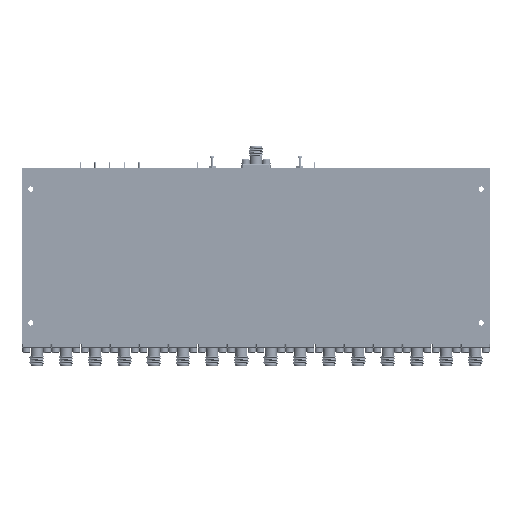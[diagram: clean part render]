
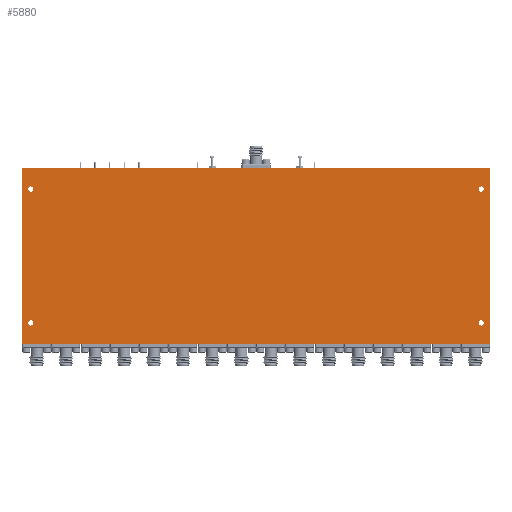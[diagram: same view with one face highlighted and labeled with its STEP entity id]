
A CAD part, front view. The second image highlights one B-rep face of the part: STEP entity #5880.
In plain terms, the highlighted planar face has unit normal (0, -1, 0).
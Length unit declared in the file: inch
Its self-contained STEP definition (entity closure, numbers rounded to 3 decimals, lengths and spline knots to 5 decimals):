
#5880 = ADVANCED_FACE ( 'NONE', ( #148911, #125800, #83994, #70298, #8652 ), #34360, .F. ) ;
#6120 = EDGE_CURVE ( 'NONE', #85641, #85641, #51539, .T. ) ;
#8652 = FACE_OUTER_BOUND ( 'NONE', #106930, .T. ) ;
#9674 = VECTOR ( 'NONE', #37652, 39.37008 ) ;
#14022 = AXIS2_PLACEMENT_3D ( 'NONE', #140952, #90582, #37541 ) ;
#16213 = VERTEX_POINT ( 'NONE', #145382 ) ;
#16367 = VERTEX_POINT ( 'NONE', #60601 ) ;
#21450 = CARTESIAN_POINT ( 'NONE',  ( -4., -0.325, 1.5 ) ) ;
#21788 = ORIENTED_EDGE ( 'NONE', *, *, #148360, .T. ) ;
#22712 = VERTEX_POINT ( 'NONE', #149258 ) ;
#23329 = LINE ( 'NONE', #102002, #157859 ) ;
#24886 = CIRCLE ( 'NONE', #14022, 0.0445 ) ;
#26909 = LINE ( 'NONE', #120881, #135107 ) ;
#26924 = AXIS2_PLACEMENT_3D ( 'NONE', #71157, #85690, #98448 ) ;
#28241 = EDGE_LOOP ( 'NONE', ( #21788 ) ) ;
#30938 = CARTESIAN_POINT ( 'NONE',  ( -3.85, -0.325, -1.1005 ) ) ;
#31330 = DIRECTION ( 'NONE',  ( 0., 1., 0. ) ) ;
#34360 = PLANE ( 'NONE',  #26924 ) ;
#37541 = DIRECTION ( 'NONE',  ( 0., 0., 1. ) ) ;
#37652 = DIRECTION ( 'NONE',  ( 1., 0., 0. ) ) ;
#42197 = DIRECTION ( 'NONE',  ( 0., 0., 1. ) ) ;
#51539 = CIRCLE ( 'NONE', #147074, 0.0445 ) ;
#51943 = LINE ( 'NONE', #154570, #110627 ) ;
#56202 = CARTESIAN_POINT ( 'NONE',  ( -3.85, -0.325, -1.145 ) ) ;
#57696 = ORIENTED_EDGE ( 'NONE', *, *, #6120, .T. ) ;
#57876 = DIRECTION ( 'NONE',  ( 0., 0., 1. ) ) ;
#58152 = CARTESIAN_POINT ( 'NONE',  ( 3.85, -0.325, -1.145 ) ) ;
#59105 = EDGE_CURVE ( 'NONE', #16213, #75397, #51943, .T. ) ;
#60601 = CARTESIAN_POINT ( 'NONE',  ( -4., -0.325, 1.5 ) ) ;
#63935 = DIRECTION ( 'NONE',  ( -1., 0., 0. ) ) ;
#64990 = VERTEX_POINT ( 'NONE', #166717 ) ;
#64994 = CARTESIAN_POINT ( 'NONE',  ( -4., -0.325, -1.5 ) ) ;
#69212 = ORIENTED_EDGE ( 'NONE', *, *, #146844, .T. ) ;
#69895 = VERTEX_POINT ( 'NONE', #105100 ) ;
#70298 = FACE_BOUND ( 'NONE', #153031, .T. ) ;
#71157 = CARTESIAN_POINT ( 'NONE',  ( 0., -0.325, 0. ) ) ;
#75397 = VERTEX_POINT ( 'NONE', #64994 ) ;
#80013 = EDGE_CURVE ( 'NONE', #22712, #22712, #24886, .T. ) ;
#83994 = FACE_BOUND ( 'NONE', #131357, .T. ) ;
#85173 = CIRCLE ( 'NONE', #136982, 0.0445 ) ;
#85641 = VERTEX_POINT ( 'NONE', #30938 ) ;
#85690 = DIRECTION ( 'NONE',  ( 0., 1., 0. ) ) ;
#87512 = DIRECTION ( 'NONE',  ( 0., 0., -1. ) ) ;
#90582 = DIRECTION ( 'NONE',  ( 0., 1., 0. ) ) ;
#93272 = ORIENTED_EDGE ( 'NONE', *, *, #155781, .F. ) ;
#97486 = DIRECTION ( 'NONE',  ( 0., 1., 0. ) ) ;
#98448 = DIRECTION ( 'NONE',  ( 0., 0., 1. ) ) ;
#99093 = ORIENTED_EDGE ( 'NONE', *, *, #59105, .F. ) ;
#101842 = CARTESIAN_POINT ( 'NONE',  ( -3.85, -0.325, 1.1895 ) ) ;
#102002 = CARTESIAN_POINT ( 'NONE',  ( 4., -0.325, -1.5 ) ) ;
#105100 = CARTESIAN_POINT ( 'NONE',  ( 4., -0.325, 1.5 ) ) ;
#106930 = EDGE_LOOP ( 'NONE', ( #133156, #99093, #140494, #93272 ) ) ;
#110627 = VECTOR ( 'NONE', #63935, 39.37008 ) ;
#119691 = EDGE_CURVE ( 'NONE', #69895, #16213, #23329, .T. ) ;
#120881 = CARTESIAN_POINT ( 'NONE',  ( -4., -0.325, -1.5 ) ) ;
#124828 = DIRECTION ( 'NONE',  ( 0., 0., 1. ) ) ;
#125800 = FACE_BOUND ( 'NONE', #28241, .T. ) ;
#131357 = EDGE_LOOP ( 'NONE', ( #154256 ) ) ;
#133156 = ORIENTED_EDGE ( 'NONE', *, *, #165664, .F. ) ;
#134755 = CARTESIAN_POINT ( 'NONE',  ( -3.85, -0.325, 1.145 ) ) ;
#135107 = VECTOR ( 'NONE', #42197, 39.37008 ) ;
#136982 = AXIS2_PLACEMENT_3D ( 'NONE', #58152, #97486, #124828 ) ;
#140323 = CIRCLE ( 'NONE', #151182, 0.0445 ) ;
#140494 = ORIENTED_EDGE ( 'NONE', *, *, #119691, .F. ) ;
#140952 = CARTESIAN_POINT ( 'NONE',  ( 3.85, -0.325, 1.145 ) ) ;
#141958 = VERTEX_POINT ( 'NONE', #101842 ) ;
#145382 = CARTESIAN_POINT ( 'NONE',  ( 4., -0.325, -1.5 ) ) ;
#146844 = EDGE_CURVE ( 'NONE', #64990, #64990, #85173, .T. ) ;
#147074 = AXIS2_PLACEMENT_3D ( 'NONE', #56202, #160509, #57876 ) ;
#148360 = EDGE_CURVE ( 'NONE', #141958, #141958, #140323, .T. ) ;
#148911 = FACE_BOUND ( 'NONE', #157617, .T. ) ;
#149258 = CARTESIAN_POINT ( 'NONE',  ( 3.85, -0.325, 1.1895 ) ) ;
#151182 = AXIS2_PLACEMENT_3D ( 'NONE', #134755, #31330, #162887 ) ;
#153031 = EDGE_LOOP ( 'NONE', ( #69212 ) ) ;
#154256 = ORIENTED_EDGE ( 'NONE', *, *, #80013, .T. ) ;
#154570 = CARTESIAN_POINT ( 'NONE',  ( -4., -0.325, -1.5 ) ) ;
#154762 = LINE ( 'NONE', #21450, #9674 ) ;
#155781 = EDGE_CURVE ( 'NONE', #16367, #69895, #154762, .T. ) ;
#157617 = EDGE_LOOP ( 'NONE', ( #57696 ) ) ;
#157859 = VECTOR ( 'NONE', #87512, 39.37008 ) ;
#160509 = DIRECTION ( 'NONE',  ( 0., 1., 0. ) ) ;
#162887 = DIRECTION ( 'NONE',  ( 0., 0., 1. ) ) ;
#165664 = EDGE_CURVE ( 'NONE', #75397, #16367, #26909, .T. ) ;
#166717 = CARTESIAN_POINT ( 'NONE',  ( 3.85, -0.325, -1.1005 ) ) ;
